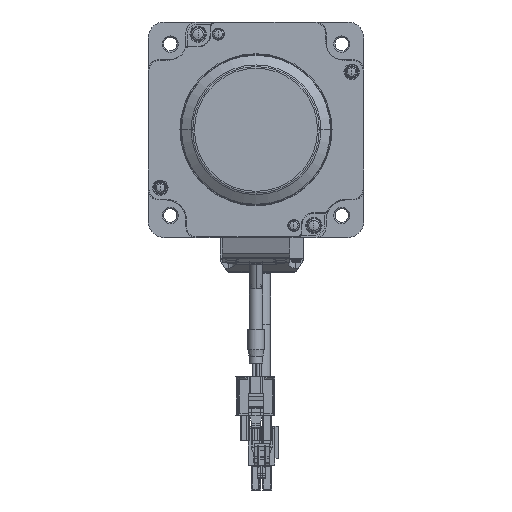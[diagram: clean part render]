
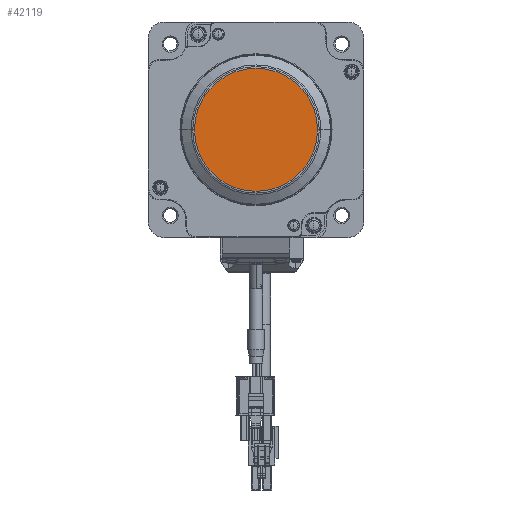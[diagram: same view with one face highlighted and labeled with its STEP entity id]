
A CAD part, front view. The second image highlights one B-rep face of the part: STEP entity #42119.
In plain terms, the highlighted planar face has unit normal (0, -1, 0) as drawn and (-1, 0, 0) by its records, which use the part's own axes.
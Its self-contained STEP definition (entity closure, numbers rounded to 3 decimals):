
#35100=CARTESIAN_POINT('',(-91.9,0.,0.));
#35101=DIRECTION('',(-1.,0.,0.));
#35102=DIRECTION('',(0.,0.,-1.));
#35103=AXIS2_PLACEMENT_3D('',#35100,#35101,#35102);
#35105=CARTESIAN_POINT('',(-91.9,0.,0.));
#35106=DIRECTION('',(-1.,0.,0.));
#35107=DIRECTION('',(0.,0.,1.));
#35108=AXIS2_PLACEMENT_3D('',#35105,#35106,#35107);
#36932=CARTESIAN_POINT('',(-91.9,0.,-22.84));
#36934=VERTEX_POINT('',#36932);
#36938=CARTESIAN_POINT('',(-91.9,0.,22.84));
#36939=VERTEX_POINT('',#36938);
#42109=CARTESIAN_POINT('',(-91.9,-22.,36.));
#42110=DIRECTION('',(1.,0.,0.));
#42111=DIRECTION('',(0.,0.,-1.));
#42112=AXIS2_PLACEMENT_3D('',#42109,#42110,#42111);
#42113=PLANE('',#42112);
#42114=ORIENTED_EDGE('',*,*,#42099,.F.);
#42116=ORIENTED_EDGE('',*,*,#42115,.F.);
#42117=EDGE_LOOP('',(#42114,#42116));
#42118=FACE_OUTER_BOUND('',#42117,.F.);
#42119=ADVANCED_FACE('',(#42118),#42113,.F.);
#35104=CIRCLE('',#35103,22.84);
#35109=CIRCLE('',#35108,22.84);
#42099=EDGE_CURVE('',#36934,#36939,#35104,.T.);
#42115=EDGE_CURVE('',#36939,#36934,#35109,.T.);
